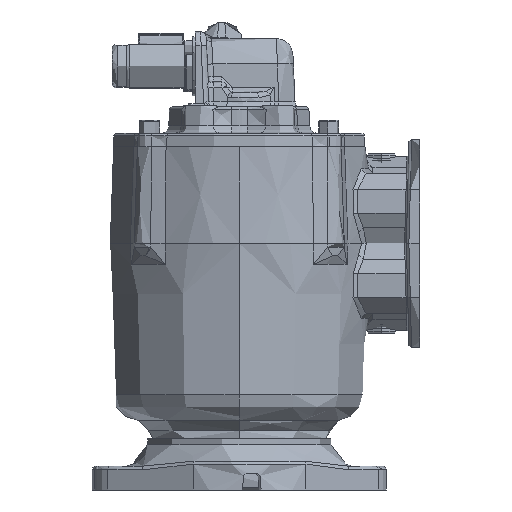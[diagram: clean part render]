
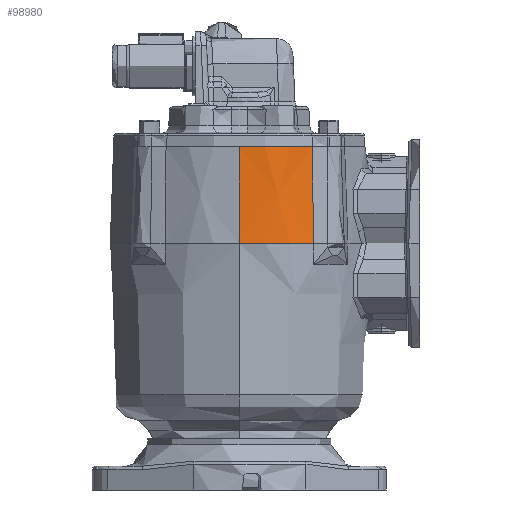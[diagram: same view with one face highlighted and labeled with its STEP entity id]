
A CAD part, left-side view. The second image highlights one B-rep face of the part: STEP entity #98980.
In plain terms, the highlighted conical face has half-angle 2 degrees and reference radius 78.232 mm.
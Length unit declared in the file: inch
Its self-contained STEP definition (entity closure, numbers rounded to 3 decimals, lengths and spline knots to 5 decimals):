
#2696 = VERTEX_POINT ( 'NONE', #123930 ) ;
#8333 = CIRCLE ( 'NONE', #17077, 3.00092 ) ;
#11548 = EDGE_CURVE ( 'NONE', #69652, #74055, #21587, .T. ) ;
#16473 = EDGE_LOOP ( 'NONE', ( #18947, #82893, #108269, #122126 ) ) ;
#17077 = AXIS2_PLACEMENT_3D ( 'NONE', #130358, #56918, #98419 ) ;
#18112 = CONICAL_SURFACE ( 'NONE', #107205, 3.08, 0.035 ) ;
#18947 = ORIENTED_EDGE ( 'NONE', *, *, #75620, .T. ) ;
#19232 = EDGE_CURVE ( 'NONE', #29995, #2696, #53832, .T. ) ;
#21587 = LINE ( 'NONE', #61791, #80572 ) ;
#28821 = EDGE_CURVE ( 'NONE', #29995, #74055, #74605, .T. ) ;
#29995 = VERTEX_POINT ( 'NONE', #67125 ) ;
#32036 = DIRECTION ( 'NONE',  ( -1., 0., 0. ) ) ;
#32408 = CARTESIAN_POINT ( 'NONE',  ( -4.33, 3.3296, 0. ) ) ;
#42576 = CARTESIAN_POINT ( 'NONE',  ( -3.76669, 1.60156, 0.77814 ) ) ;
#49746 = CARTESIAN_POINT ( 'NONE',  ( -4.25092, 3.3296, 2.2645 ) ) ;
#50776 = CARTESIAN_POINT ( 'NONE',  ( -3.71437, 1.61717, 2.2645 ) ) ;
#52113 = CARTESIAN_POINT ( 'NONE',  ( -3.74018, 1.60955, 1.53298 ) ) ;
#52218 = DIRECTION ( 'NONE',  ( -0.035, 0., -0.999 ) ) ;
#53832 = B_SPLINE_CURVE_WITH_KNOTS ( 'NONE', 3,
 ( #105179, #42576, #52113, #50776 ),
 .UNSPECIFIED., .F., .F.,
 ( 4, 4 ),
 ( 0., 1. ),
 .UNSPECIFIED. ) ;
#56918 = DIRECTION ( 'NONE',  ( 0., 0., -1. ) ) ;
#61791 = CARTESIAN_POINT ( 'NONE',  ( -4.33, 3.3296, 0. ) ) ;
#67125 = CARTESIAN_POINT ( 'NONE',  ( -3.79389, 1.59322, 0. ) ) ;
#69652 = VERTEX_POINT ( 'NONE', #49746 ) ;
#74055 = VERTEX_POINT ( 'NONE', #32408 ) ;
#74605 = CIRCLE ( 'NONE', #117956, 3.08 ) ;
#75620 = EDGE_CURVE ( 'NONE', #2696, #69652, #8333, .T. ) ;
#80572 = VECTOR ( 'NONE', #52218, 39.37008 ) ;
#81344 = CARTESIAN_POINT ( 'NONE',  ( -1.25, 3.3296, 0. ) ) ;
#81813 = DIRECTION ( 'NONE',  ( 0., 0., -1. ) ) ;
#82893 = ORIENTED_EDGE ( 'NONE', *, *, #11548, .T. ) ;
#90887 = DIRECTION ( 'NONE',  ( 0., 0., -1. ) ) ;
#92671 = FACE_OUTER_BOUND ( 'NONE', #16473, .T. ) ;
#93980 = CARTESIAN_POINT ( 'NONE',  ( -1.25, 3.3296, 0. ) ) ;
#98419 = DIRECTION ( 'NONE',  ( -1., 0., 0. ) ) ;
#98980 = ADVANCED_FACE ( 'NONE', ( #92671 ), #18112, .T. ) ;
#105179 = CARTESIAN_POINT ( 'NONE',  ( -3.79389, 1.59322, 0. ) ) ;
#107205 = AXIS2_PLACEMENT_3D ( 'NONE', #93980, #81813, #32036 ) ;
#108269 = ORIENTED_EDGE ( 'NONE', *, *, #28821, .F. ) ;
#117956 = AXIS2_PLACEMENT_3D ( 'NONE', #81344, #90887, #121477 ) ;
#121477 = DIRECTION ( 'NONE',  ( 1., 0., 0. ) ) ;
#122126 = ORIENTED_EDGE ( 'NONE', *, *, #19232, .T. ) ;
#123930 = CARTESIAN_POINT ( 'NONE',  ( -3.71437, 1.61717, 2.2645 ) ) ;
#130358 = CARTESIAN_POINT ( 'NONE',  ( -1.25, 3.3296, 2.2645 ) ) ;
